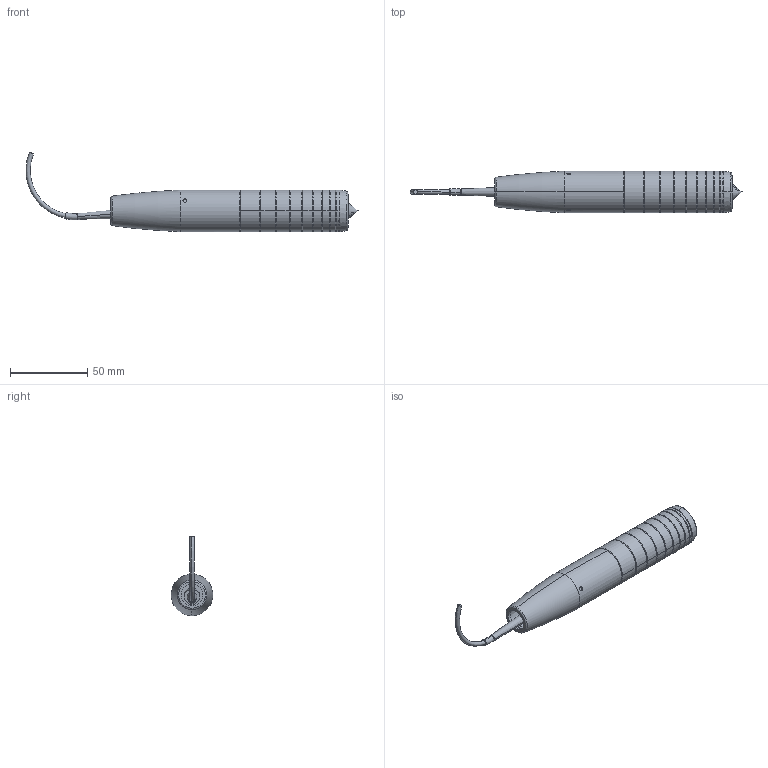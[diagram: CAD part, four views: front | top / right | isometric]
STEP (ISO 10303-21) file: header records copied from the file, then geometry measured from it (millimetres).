
FILE_DESCRIPTION (( 'STEP AP214' ), '1' );
FILE_NAME ('2602025 IFS2405-0,3 Sensor, vereinfacht.STEP', '2013-01-24T15:30:09', ( 'MICRO-EPSILON Optronic GmbH' ), ( 'MICRO-EPSILON Optronic GmbH' ), 'SwSTEP 2.0', 'SolidWorks 2012', '' );
FILE_SCHEMA (( 'AUTOMOTIVE_DESIGN' ));
Length unit declared in the file: millimetre
Products named in the file (1): 2602025 IFS2405-0,3 Sensor, vereinfacht
Bounding box: 215.34 x 27 x 51.51 mm (x, y, z)
Volume: 76760.2 mm3; surface area: 17868.9 mm2
Topology: 2 solids, 5 shells, 147 faces, 304 edges, 170 vertices
Faces by surface type: torus 58, cylinder 56, cone 16, plane 15, bspline 2
Entity records: 6012 total; most frequent: CARTESIAN_POINT 1299, DIRECTION 758, ORIENTED_EDGE 592, AXIS2_PLACEMENT_3D 344, EDGE_CURVE 296, CIRCLE 198, VERTEX_POINT 170, EDGE_LOOP 162
